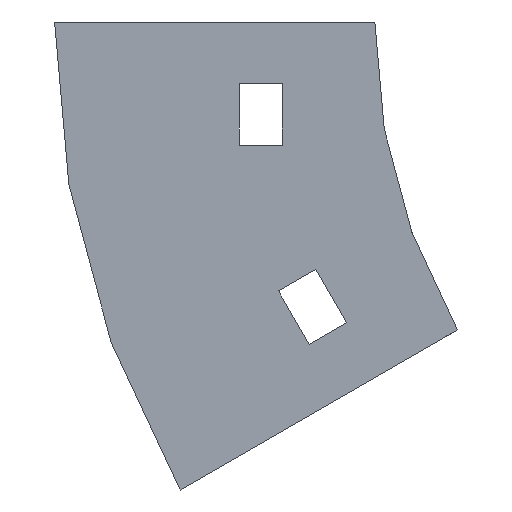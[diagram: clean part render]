
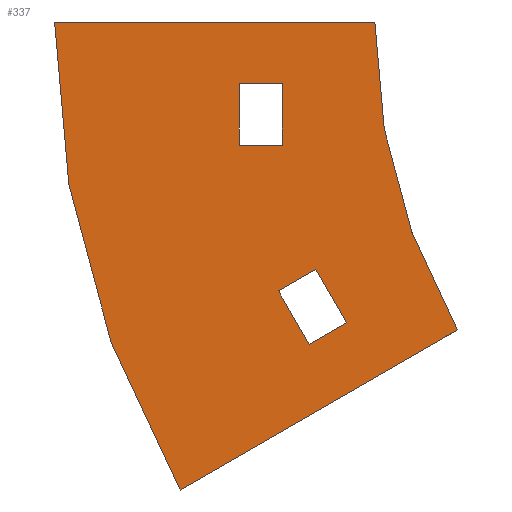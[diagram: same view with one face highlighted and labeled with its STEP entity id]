
A CAD part, left-side view. The second image highlights one B-rep face of the part: STEP entity #337.
In plain terms, the highlighted planar face has unit normal (-1, 0, 0).
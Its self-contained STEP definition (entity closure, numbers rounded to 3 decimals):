
#7 = CARTESIAN_POINT ( 'NONE',  ( -302., 22., -20. ) ) ;
#11 = LINE ( 'NONE', #181, #401 ) ;
#17 = DIRECTION ( 'NONE',  ( -1., 0., 0. ) ) ;
#20 = DIRECTION ( 'NONE',  ( 0., 1., 0. ) ) ;
#26 = FACE_OUTER_BOUND ( 'NONE', #360, .T. ) ;
#50 = EDGE_CURVE ( 'NONE', #1032, #1037, #892, .T. ) ;
#51 = CARTESIAN_POINT ( 'NONE',  ( -302., -100., 0. ) ) ;
#76 = EDGE_CURVE ( 'NONE', #570, #956, #11, .T. ) ;
#90 = CARTESIAN_POINT ( 'NONE',  ( -302., 22., -10. ) ) ;
#108 = DIRECTION ( 'NONE',  ( 0., 0., -1. ) ) ;
#112 = ORIENTED_EDGE ( 'NONE', *, *, #652, .F. ) ;
#135 = DIRECTION ( 'NONE',  ( -1., 0., 0. ) ) ;
#138 = VERTEX_POINT ( 'NONE', #264 ) ;
#143 = ORIENTED_EDGE ( 'NONE', *, *, #1125, .T. ) ;
#152 = CARTESIAN_POINT ( 'NONE',  ( -302., 9.593, -40.179 ) ) ;
#165 = VECTOR ( 'NONE', #904, 1000. ) ;
#181 = CARTESIAN_POINT ( 'NONE',  ( -302., 10.655, -52.34 ) ) ;
#185 = CARTESIAN_POINT ( 'NONE',  ( -302., 15.655, -43.679 ) ) ;
#188 = CARTESIAN_POINT ( 'NONE',  ( -302., 22., -20. ) ) ;
#218 = EDGE_CURVE ( 'NONE', #944, #566, #1041, .T. ) ;
#223 = VERTEX_POINT ( 'NONE', #259 ) ;
#225 = FACE_BOUND ( 'NONE', #844, .T. ) ;
#229 = CARTESIAN_POINT ( 'NONE',  ( -302., 31.636, -76. ) ) ;
#240 = DIRECTION ( 'NONE',  ( 0., 0.866, -0.5 ) ) ;
#259 = CARTESIAN_POINT ( 'NONE',  ( -302., 22., -10. ) ) ;
#261 = CARTESIAN_POINT ( 'NONE',  ( -302., -13.397, -50. ) ) ;
#264 = CARTESIAN_POINT ( 'NONE',  ( -302., 0., 0. ) ) ;
#272 = CARTESIAN_POINT ( 'NONE',  ( -302., 15., -20. ) ) ;
#281 = VERTEX_POINT ( 'NONE', #152 ) ;
#282 = CARTESIAN_POINT ( 'NONE',  ( -302., 15., -10. ) ) ;
#286 = DIRECTION ( 'NONE',  ( 0., 0., 1. ) ) ;
#290 = ORIENTED_EDGE ( 'NONE', *, *, #521, .F. ) ;
#296 = CIRCLE ( 'NONE', #527, 152. ) ;
#308 = VERTEX_POINT ( 'NONE', #462 ) ;
#327 = CARTESIAN_POINT ( 'NONE',  ( -302., -13.397, -50. ) ) ;
#328 = DIRECTION ( 'NONE',  ( 0., 0., 1. ) ) ;
#337 = ADVANCED_FACE ( 'NONE', ( #1012, #26, #225 ), #923, .T. ) ;
#340 = VERTEX_POINT ( 'NONE', #282 ) ;
#345 = LINE ( 'NONE', #185, #929 ) ;
#360 = EDGE_LOOP ( 'NONE', ( #112, #290, #891, #701 ) ) ;
#369 = CARTESIAN_POINT ( 'NONE',  ( -302., -100., 0. ) ) ;
#371 = CARTESIAN_POINT ( 'NONE',  ( -302., 15.655, -43.679 ) ) ;
#376 = LINE ( 'NONE', #469, #715 ) ;
#385 = EDGE_CURVE ( 'NONE', #956, #281, #550, .T. ) ;
#398 = DIRECTION ( 'NONE',  ( 1., 0., 0. ) ) ;
#401 = VECTOR ( 'NONE', #634, 1000. ) ;
#411 = CARTESIAN_POINT ( 'NONE',  ( -302., 10.655, -52.34 ) ) ;
#417 = ORIENTED_EDGE ( 'NONE', *, *, #76, .F. ) ;
#425 = EDGE_CURVE ( 'NONE', #682, #570, #606, .T. ) ;
#431 = EDGE_CURVE ( 'NONE', #566, #308, #296, .T. ) ;
#453 = ORIENTED_EDGE ( 'NONE', *, *, #954, .T. ) ;
#462 = CARTESIAN_POINT ( 'NONE',  ( -302., 52., 0. ) ) ;
#469 = CARTESIAN_POINT ( 'NONE',  ( -302., 22., -10. ) ) ;
#521 = EDGE_CURVE ( 'NONE', #308, #138, #696, .T. ) ;
#527 = AXIS2_PLACEMENT_3D ( 'NONE', #51, #398, #592 ) ;
#530 = VECTOR ( 'NONE', #108, 1000. ) ;
#545 = CARTESIAN_POINT ( 'NONE',  ( -302., 15., -10. ) ) ;
#550 = LINE ( 'NONE', #1107, #165 ) ;
#566 = VERTEX_POINT ( 'NONE', #229 ) ;
#570 = VERTEX_POINT ( 'NONE', #649 ) ;
#592 = DIRECTION ( 'NONE',  ( 0., 0., 1. ) ) ;
#606 = LINE ( 'NONE', #411, #669 ) ;
#622 = ORIENTED_EDGE ( 'NONE', *, *, #385, .F. ) ;
#634 = DIRECTION ( 'NONE',  ( 0., -0.866, 0.5 ) ) ;
#649 = CARTESIAN_POINT ( 'NONE',  ( -302., 10.655, -52.34 ) ) ;
#652 = EDGE_CURVE ( 'NONE', #138, #944, #788, .T. ) ;
#653 = AXIS2_PLACEMENT_3D ( 'NONE', #667, #135, #286 ) ;
#655 = EDGE_LOOP ( 'NONE', ( #453, #143, #894, #888 ) ) ;
#667 = CARTESIAN_POINT ( 'NONE',  ( -302., -100., 0. ) ) ;
#669 = VECTOR ( 'NONE', #841, 1000. ) ;
#682 = VERTEX_POINT ( 'NONE', #371 ) ;
#696 = LINE ( 'NONE', #1057, #805 ) ;
#701 = ORIENTED_EDGE ( 'NONE', *, *, #218, .F. ) ;
#715 = VECTOR ( 'NONE', #328, 1000. ) ;
#737 = LINE ( 'NONE', #545, #530 ) ;
#753 = AXIS2_PLACEMENT_3D ( 'NONE', #369, #17, #918 ) ;
#756 = ORIENTED_EDGE ( 'NONE', *, *, #794, .F. ) ;
#772 = LINE ( 'NONE', #90, #1078 ) ;
#779 = DIRECTION ( 'NONE',  ( 0., -1., 0. ) ) ;
#783 = CARTESIAN_POINT ( 'NONE',  ( -302., 4.593, -48.84 ) ) ;
#788 = CIRCLE ( 'NONE', #653, 100. ) ;
#794 = EDGE_CURVE ( 'NONE', #281, #682, #345, .T. ) ;
#805 = VECTOR ( 'NONE', #779, 1000. ) ;
#841 = DIRECTION ( 'NONE',  ( 0., -0.5, -0.866 ) ) ;
#844 = EDGE_LOOP ( 'NONE', ( #622, #417, #1103, #756 ) ) ;
#848 = VECTOR ( 'NONE', #20, 1000. ) ;
#888 = ORIENTED_EDGE ( 'NONE', *, *, #917, .T. ) ;
#891 = ORIENTED_EDGE ( 'NONE', *, *, #431, .F. ) ;
#892 = LINE ( 'NONE', #188, #848 ) ;
#894 = ORIENTED_EDGE ( 'NONE', *, *, #50, .T. ) ;
#904 = DIRECTION ( 'NONE',  ( 0., 0.5, 0.866 ) ) ;
#917 = EDGE_CURVE ( 'NONE', #1037, #223, #376, .T. ) ;
#918 = DIRECTION ( 'NONE',  ( 0., 0., 1. ) ) ;
#923 = PLANE ( 'NONE',  #753 ) ;
#929 = VECTOR ( 'NONE', #969, 1000. ) ;
#944 = VERTEX_POINT ( 'NONE', #261 ) ;
#954 = EDGE_CURVE ( 'NONE', #223, #340, #772, .T. ) ;
#956 = VERTEX_POINT ( 'NONE', #783 ) ;
#969 = DIRECTION ( 'NONE',  ( 0., 0.866, -0.5 ) ) ;
#1012 = FACE_BOUND ( 'NONE', #655, .T. ) ;
#1032 = VERTEX_POINT ( 'NONE', #272 ) ;
#1037 = VERTEX_POINT ( 'NONE', #7 ) ;
#1041 = LINE ( 'NONE', #327, #1131 ) ;
#1057 = CARTESIAN_POINT ( 'NONE',  ( -302., 52., 0. ) ) ;
#1064 = DIRECTION ( 'NONE',  ( 0., -1., 0. ) ) ;
#1078 = VECTOR ( 'NONE', #1064, 1000. ) ;
#1103 = ORIENTED_EDGE ( 'NONE', *, *, #425, .F. ) ;
#1107 = CARTESIAN_POINT ( 'NONE',  ( -302., 4.593, -48.84 ) ) ;
#1125 = EDGE_CURVE ( 'NONE', #340, #1032, #737, .T. ) ;
#1131 = VECTOR ( 'NONE', #240, 1000. ) ;
